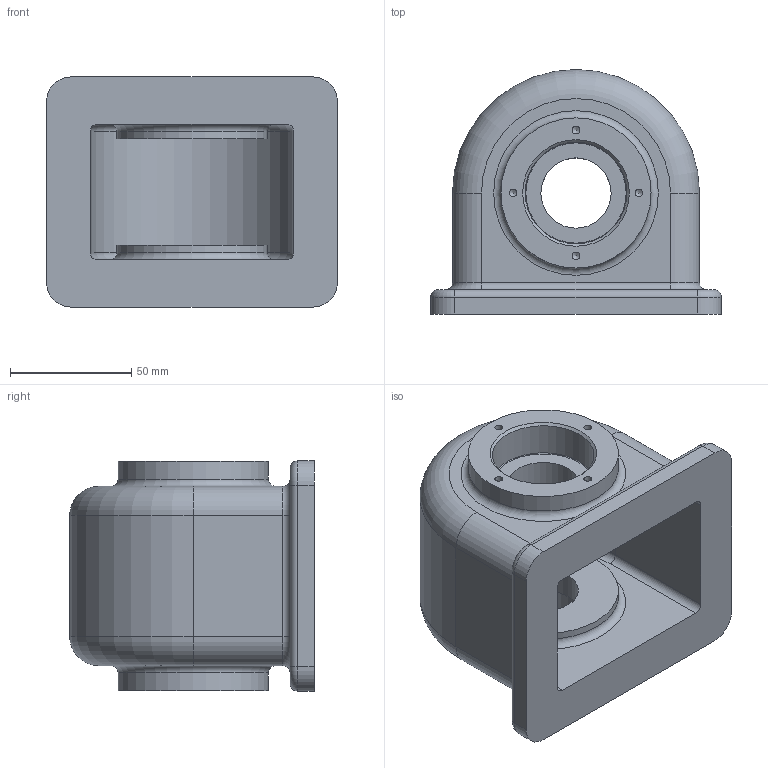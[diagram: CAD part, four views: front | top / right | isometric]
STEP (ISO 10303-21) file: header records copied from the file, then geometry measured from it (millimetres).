
FILE_DESCRIPTION((''),'2;1');
FILE_NAME('C:\Users\05-01\Desktop\380736E1028\380736E1028-본체.stp','2018-07-21T16:38:11',('05-01'),(''),'Autodesk Inventor 2013','Autodesk Inventor 2013','');
FILE_SCHEMA(('AUTOMOTIVE_DESIGN { 1 0 10303 214 1 1 1 1 }'));
Length unit declared in the file: millimetre
Products named in the file (1): 380736E1028-본체
Bounding box: 120 x 101 x 95 mm (x, y, z)
Volume: 363996.1 mm3; surface area: 80840.7 mm2
Topology: 1 solids, 1 shells, 86 faces, 188 edges, 112 vertices
Faces by surface type: cylinder 38, plane 20, torus 18, cone 10
Full cylindrical faces by diameter (mm): 3.242 x8, 29 x2, 35 x1, 42 x1, 62 x4
Entity records: 2152 total; most frequent: DIRECTION 418, CARTESIAN_POINT 339, ORIENTED_EDGE 296, AXIS2_PLACEMENT_3D 183, EDGE_CURVE 148, EDGE_LOOP 130, VERTEX_POINT 104, CIRCLE 96
